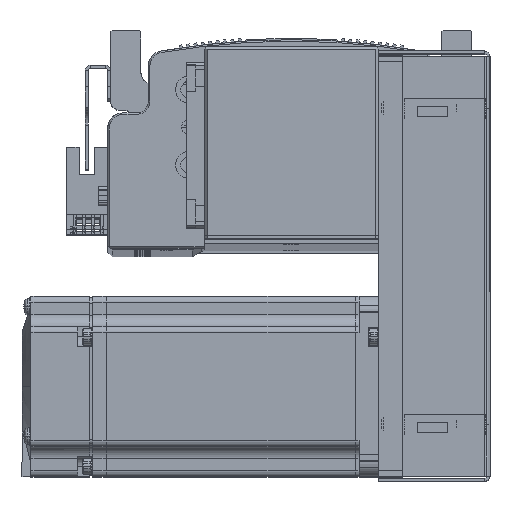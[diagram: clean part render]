
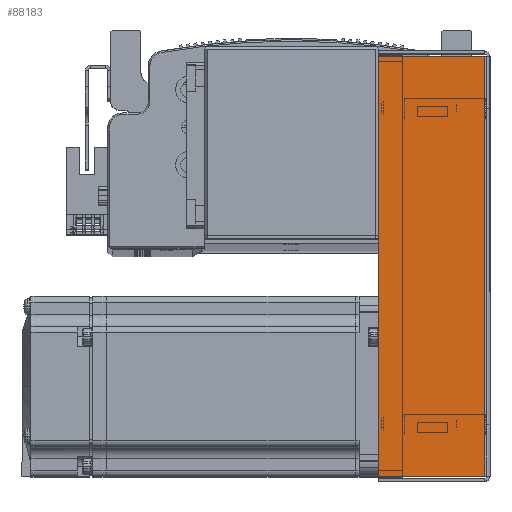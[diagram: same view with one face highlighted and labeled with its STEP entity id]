
A CAD part, top view. The second image highlights one B-rep face of the part: STEP entity #88183.
In plain terms, the highlighted planar face has unit normal (0, 0, 1).
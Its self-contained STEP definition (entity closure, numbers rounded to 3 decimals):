
#18965 = EDGE_LOOP ( 'NONE', ( #23499, #23640, #23662, #23607 ) ) ;
#19467 = EDGE_CURVE ( 'NONE', #55389, #55418, #51059, .T. ) ;
#19500 = EDGE_CURVE ( 'NONE', #55390, #55418, #51016, .T. ) ;
#19519 = EDGE_CURVE ( 'NONE', #55368, #55390, #51337, .T. ) ;
#19526 = EDGE_CURVE ( 'NONE', #55368, #55389, #51306, .T. ) ;
#23499 = ORIENTED_EDGE ( 'NONE', *, *, #19526, .F. ) ;
#23607 = ORIENTED_EDGE ( 'NONE', *, *, #19467, .F. ) ;
#23640 = ORIENTED_EDGE ( 'NONE', *, *, #19519, .T. ) ;
#23662 = ORIENTED_EDGE ( 'NONE', *, *, #19500, .T. ) ;
#44031 = DIRECTION ( 'NONE',  ( 0., 1., 0. ) ) ;
#44053 = CARTESIAN_POINT ( 'NONE',  ( -69.793, 0., 33.5 ) ) ;
#44144 = CARTESIAN_POINT ( 'NONE',  ( 0., 36., 33.5 ) ) ;
#44200 = DIRECTION ( 'NONE',  ( -1., 0., 0. ) ) ;
#44242 = CARTESIAN_POINT ( 'NONE',  ( -71.5, 0.737, 33.5 ) ) ;
#44247 = DIRECTION ( 'NONE',  ( 0., 1., 0. ) ) ;
#44264 = DIRECTION ( 'NONE',  ( -1., 0., 0. ) ) ;
#44273 = CARTESIAN_POINT ( 'NONE',  ( 69.793, 0., 33.5 ) ) ;
#51016 = LINE ( 'NONE', #44144, #51065 ) ;
#51059 = LINE ( 'NONE', #44053, #51142 ) ;
#51065 = VECTOR ( 'NONE', #44200, 1000. ) ;
#51142 = VECTOR ( 'NONE', #44031, 1000. ) ;
#51277 = VECTOR ( 'NONE', #44247, 1000. ) ;
#51306 = LINE ( 'NONE', #44242, #51340 ) ;
#51337 = LINE ( 'NONE', #44273, #51277 ) ;
#51340 = VECTOR ( 'NONE', #44264, 1000. ) ;
#55368 = VERTEX_POINT ( 'NONE', #74801 ) ;
#55389 = VERTEX_POINT ( 'NONE', #74753 ) ;
#55390 = VERTEX_POINT ( 'NONE', #74795 ) ;
#55418 = VERTEX_POINT ( 'NONE', #74867 ) ;
#62791 = PLANE ( 'NONE',  #71298 ) ;
#62792 = CARTESIAN_POINT ( 'NONE',  ( 0., 0., 33.5 ) ) ;
#62797 = DIRECTION ( 'NONE',  ( -1., 0., 0. ) ) ;
#62807 = DIRECTION ( 'NONE',  ( 0., 0., -1. ) ) ;
#69329 = FACE_OUTER_BOUND ( 'NONE', #18965, .T. ) ;
#71298 = AXIS2_PLACEMENT_3D ( 'NONE', #62792, #62807, #62797 ) ;
#74753 = CARTESIAN_POINT ( 'NONE',  ( -69.793, 0.737, 33.5 ) ) ;
#74795 = CARTESIAN_POINT ( 'NONE',  ( 69.793, 36., 33.5 ) ) ;
#74801 = CARTESIAN_POINT ( 'NONE',  ( 69.793, 0.737, 33.5 ) ) ;
#74867 = CARTESIAN_POINT ( 'NONE',  ( -69.793, 36., 33.5 ) ) ;
#88183 = ADVANCED_FACE ( 'NONE', ( #69329 ), #62791, .F. ) ;
